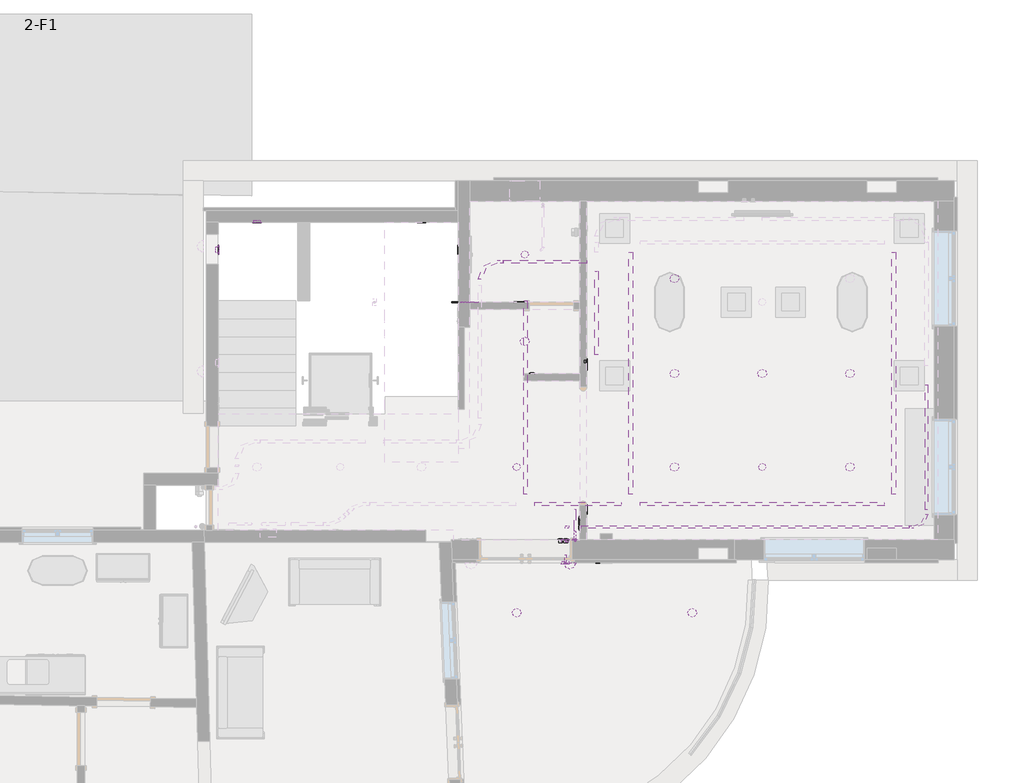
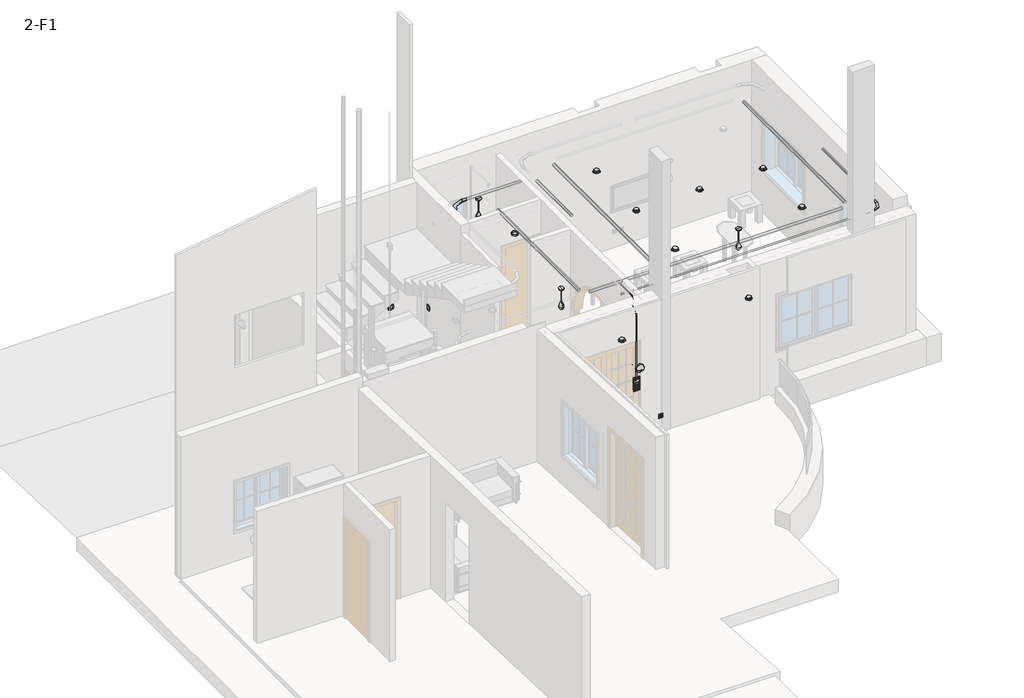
# One storey, part 5 of 6: 19 light fixtures, 16 cable carrier segments, 10 switching devices, 7 pipe fittings, 7 proxies, 6 cable carrier fittings, 5 pipe segments, 4 electric appliances.
"""IFC4 building model written with IfcOpenShell, lengths in millimetres."""

from ifc_helpers import new_model, si_unit, point, frame, frame_2d, origin, place, context, project, spatial, circle_curve, trimmed, segment, composite_curve, outline, extrude, transform, mapped, element, save
from components import mechanical_equipment_c57d0791, wall_mounted_socket_ups_wall_mounted_socket_ups_4524048d, m_conduit_elbow_aluminum_standard_d6e83718, m_conduit_elbow_steel_standard_79cfaf55, m_conduit_elbow_steel_standard_5c2c710b, m_conduit_elbow_steel_standard_9fb14d21, m_conduit_elbow_without_fittings_emt_standard_7170886f, m_conduit_elbow_without_fittings_emt_standard_8d8c0850, communication_device_4de170aa, wall_mounted_data_socket_wall_mounted_data_socket_ap_474314e8, m_downlight_recessed_can_152mm_incandescent_120v_1ee42939, m_pendant_lamp_art_glass_led_standard_2036dae1, m_recessed_lamp_round_led_e6f06c98, m_recessed_lamp_round_led_ae0475c0, street_light_07_uk_wall_mounted_94188376, m_bend_pvc_sch_40_dwv_standard_738aab8b, m_plug_pvc_sch_40_dwv_standard_6c40de1c, m_tee_reducing_sanitary_pvc_sch_40_dwv_standard_ac374d09, m_tee_sanitary_pvc_sch_40_dwv_standard_d1848222, switching_device_ab05ab5c

model = new_model("IFC4")

# Units and contexts
model_context = context("Model", 3, world=origin())
ifc_project = project(units=[si_unit("LENGTHUNIT", "METRE", prefix="MILLI")], contexts=[model_context])

# Site, building, storey
site = spatial("IfcSite", under=ifc_project)
building = spatial("IfcBuilding", under=site)
storey = spatial("IfcBuildingStorey", under=building, Name="2-F1", Elevation=3000.0)

# Proxies
placement = place(None, origin())
mechanical_equipment_shape = mechanical_equipment_c57d0791(model_context)
element("IfcBuildingElementProxy", 1, Name="HC_Control Unit_MEPcontent_ABB_ClimaEco Sensors_HVAC-control element_INT-EN : SAF-A1.0.1-24", ObjectType="HC_Control Unit_MEPcontent_ABB_ClimaEco Sensors_HVAC-control element_INT-EN : SAF-A1.0.1-24", at=placement, inside=storey, context=model_context, shape_type="MappedRepresentation", body=[
    mapped(mechanical_equipment_shape, transform((1129.4713421, 3162.6789159, 4600.0), x_axis=(-1.0, 0.0, 0.0), y_axis=(0.0, 0.0, 1.0), z_axis=(0.0, 1.0, 0.0))),
])
wall_mounted_socket_ups_wall_mounted_socket_ups_shape = wall_mounted_socket_ups_wall_mounted_socket_ups_4524048d(model_context)
element("IfcBuildingElementProxy", 2, Name="WALL MOUNTED SOCKET : WALL MOUNTED SOCKET", ObjectType="WALL MOUNTED SOCKET : WALL MOUNTED SOCKET", at=placement, inside=storey, context=model_context, shape_type="MappedRepresentation", body=[
    mapped(wall_mounted_socket_ups_wall_mounted_socket_ups_shape, transform((1535.5234079, 2780.6486583, 3450.0), x_axis=(1.0, 0.0, 0.0), y_axis=(0.0, 0.0, 1.0), z_axis=(0.0, -1.0, 0.0))),
])
element("IfcBuildingElementProxy", 3, Name="WALL MOUNTED SOCKET UPS : WALL MOUNTED SOCKET UPS", ObjectType="WALL MOUNTED SOCKET UPS : WALL MOUNTED SOCKET UPS", at=placement, inside=storey, context=model_context, shape_type="MappedRepresentation", body=[
    mapped(wall_mounted_socket_ups_wall_mounted_socket_ups_shape, transform((-627.4765921, 9014.1620874, 4110.0), x_axis=(0.0, 1.0, 0.0), y_axis=(0.0, 0.0, 1.0), z_axis=(1.0, 0.0, 0.0))),
])
element("IfcBuildingElementProxy", 4, Name="WALL MOUNTED SOCKET UPS : WALL MOUNTED SOCKET UPS", ObjectType="WALL MOUNTED SOCKET UPS : WALL MOUNTED SOCKET UPS", at=placement, inside=storey, context=model_context, shape_type="MappedRepresentation", body=[
    mapped(wall_mounted_socket_ups_wall_mounted_socket_ups_shape, transform((1335.5234079, 6061.6620874, 3450.0), x_axis=(0.0, 1.0, 0.0), y_axis=(0.0, 0.0, 1.0), z_axis=(1.0, 0.0, 0.0))),
])
element("IfcBuildingElementProxy", 5, Name="WALL MOUNTED SOCKET UPS : WALL MOUNTED SOCKET UPS", ObjectType="WALL MOUNTED SOCKET UPS : WALL MOUNTED SOCKET UPS", at=placement, inside=storey, context=model_context, shape_type="MappedRepresentation", body=[
    mapped(wall_mounted_socket_ups_wall_mounted_socket_ups_shape, transform((3335.5234079, 3162.6789159, 3450.0), x_axis=(-1.0, 0.0, 0.0), y_axis=(0.0, 0.0, 1.0), z_axis=(0.0, 1.0, 0.0))),
])
element("IfcBuildingElementProxy", 6, Name="WALL MOUNTED SOCKET UPS : WALL MOUNTED SOCKET UPS", ObjectType="WALL MOUNTED SOCKET UPS : WALL MOUNTED SOCKET UPS", at=placement, inside=storey, context=model_context, shape_type="MappedRepresentation", body=[
    mapped(wall_mounted_socket_ups_wall_mounted_socket_ups_shape, transform((7235.5234079, 3317.3986583, 3450.0), x_axis=(0.0, -1.0, 0.0), y_axis=(0.0, 0.0, 1.0), z_axis=(-1.0, 0.0, 0.0))),
])
element("IfcBuildingElementProxy", 7, Name="WALL MOUNTED WATERPROOF SOCKET : WALL MOUNTED WATERPROOF SOCKET", ObjectType="WALL MOUNTED WATERPROOF SOCKET : WALL MOUNTED WATERPROOF SOCKET", at=placement, inside=storey, context=model_context, shape_type="MappedRepresentation", body=[
    mapped(wall_mounted_socket_ups_wall_mounted_socket_ups_shape, transform((-430.7265921, 9251.6620874, 1945.0), x_axis=(-1.0, 0.0, 0.0), y_axis=(0.0, 0.0, 1.0), z_axis=(0.0, 1.0, 0.0))),
])

# Cable carrier fittings
m_conduit_elbow_aluminum_standard_shape = m_conduit_elbow_aluminum_standard_d6e83718(model_context)
element("IfcCableCarrierFitting", 8, ObjectType="M_Conduit Elbow - Aluminum : Standard", at=placement, inside=storey, context=model_context, shape_type="MappedRepresentation", body=[
    mapped(m_conduit_elbow_aluminum_standard_shape, transform((1137.9812451, 3147.4452594, 6275.3435562), x_axis=(0.0, -0.9999750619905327, 0.007062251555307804), y_axis=(0.0, -0.007062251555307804, -0.9999750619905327), z_axis=(1.0, 0.0, 0.0))),
])
m_conduit_elbow_steel_standard_shape = m_conduit_elbow_steel_standard_79cfaf55(model_context)
element("IfcCableCarrierFitting", 9, ObjectType="M_Conduit Elbow - Steel : Standard", at=placement, inside=storey, context=model_context, shape_type="MappedRepresentation", body=[
    mapped(m_conduit_elbow_steel_standard_shape, transform((7045.0916116, 3382.4258078, 6269.835), x_axis=(1.0, 0.0, 0.0), y_axis=(0.0, 1.0, 0.0), z_axis=(0.0, 0.0, 1.0))),
])
m_conduit_elbow_steel_standard_2_shape = m_conduit_elbow_steel_standard_5c2c710b(model_context)
element("IfcCableCarrierFitting", 10, ObjectType="M_Conduit Elbow - Steel : Standard", at=placement, inside=storey, context=model_context, shape_type="MappedRepresentation", body=[
    mapped(m_conduit_elbow_steel_standard_2_shape, transform((976.3682535, 2781.676757, 6269.835), x_axis=(0.0, 0.0, 1.0), y_axis=(0.0, 1.0, 0.0), z_axis=(-1.0, 0.0, 0.0))),
])
m_conduit_elbow_steel_standard_3_shape = m_conduit_elbow_steel_standard_9fb14d21(model_context)
element("IfcCableCarrierFitting", 11, ObjectType="M_Conduit Elbow - Steel : Standard", at=placement, inside=storey, context=model_context, shape_type="MappedRepresentation", body=[
    mapped(m_conduit_elbow_steel_standard_3_shape, transform((-464.4765921, 7840.3, 6269.835), x_axis=(-1.0, 0.0, 0.0), y_axis=(0.0, -1.0, 0.0), z_axis=(0.0, 0.0, 1.0))),
])
m_conduit_elbow_without_fittings_emt_standard_shape = m_conduit_elbow_without_fittings_emt_standard_7170886f(model_context)
element("IfcCableCarrierFitting", 12, ObjectType="M_Conduit Elbow - without Fittings - EMT : Standard", at=placement, inside=storey, context=model_context, shape_type="MappedRepresentation", body=[
    mapped(m_conduit_elbow_without_fittings_emt_standard_shape, transform((-777.1788108, 7159.7000558, 6291.042078), x_axis=(-0.9999999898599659, 0.0, 0.00014240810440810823), y_axis=(-0.00014240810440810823, 0.0, -0.9999999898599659), z_axis=(0.0, -1.0, 0.0))),
])
m_conduit_elbow_without_fittings_emt_standard_2_shape = m_conduit_elbow_without_fittings_emt_standard_8d8c0850(model_context)
element("IfcCableCarrierFitting", 13, ObjectType="M_Conduit Elbow - without Fittings - EMT : Standard", at=placement, inside=storey, context=model_context, shape_type="MappedRepresentation", body=[
    mapped(m_conduit_elbow_without_fittings_emt_standard_2_shape, transform((-777.1788108, 7159.7000558, 1671.0418139), x_axis=(0.0, 0.0, -1.0), y_axis=(-1.0, 0.0, 0.0), z_axis=(0.0, 1.0, 0.0))),
])

# Cable carrier segments
element("IfcCableCarrierSegment", 14, ObjectType="Electrical Metallic Tubing (EMT)", at=placement, inside=storey, context=model_context, shape_type="SweptSolid", body=[
    extrude(outline(composite_curve([segment(trimmed(circle_curve(frame_2d((0.0, -8.965)), 8.965), [point((-8.965, -8.965))], [point((0.0, 0.0))], False, "CARTESIAN"), True, "CONTINUOUS"), segment(trimmed(circle_curve(frame_2d((0.0, -8.965)), 8.965), [point((0.0, 0.0))], [point((8.965, -8.965))], False, "CARTESIAN"), True, "CONTINUOUS"), segment(trimmed(circle_curve(frame_2d((0.0, -8.965)), 8.965), [point((8.965, -8.965))], [point((0.0, -17.93))], False, "CARTESIAN"), True, "CONTINUOUS"), segment(trimmed(circle_curve(frame_2d((0.0, -8.965)), 8.965), [point((0.0, -17.93))], [point((-8.965, -8.965))], False, "CARTESIAN"), True, "CONTINUOUS")], self_intersect=False)), frame((-490.5258686, 7159.7000558, 6282.0362562), z_axis=(-0.9999999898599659, 0.0, 0.00014240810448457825), x_axis=(0.0, 1.0, 0.0)), (0.0, 0.0, 1.0), 131.6184746),
])
element("IfcCableCarrierSegment", 15, ObjectType="Electrical Metallic Tubing (EMT)", at=placement, inside=storey, context=model_context, shape_type="SweptSolid", body=[
    extrude(outline(composite_curve([segment(trimmed(circle_curve(frame_2d((-777.1788108, 7159.7000558)), 8.965), [point((-768.2138108, 7159.7000558))], [point((-777.1788108, 7150.7350558))], False, "CARTESIAN"), True, "CONTINUOUS"), segment(trimmed(circle_curve(frame_2d((-777.1788108, 7159.7000558)), 8.965), [point((-777.1788108, 7150.7350558))], [point((-786.1438108, 7159.7000558))], False, "CARTESIAN"), True, "CONTINUOUS"), segment(trimmed(circle_curve(frame_2d((-777.1788108, 7159.7000558)), 8.965), [point((-786.1438108, 7159.7000558))], [point((-777.1788108, 7168.6650558))], False, "CARTESIAN"), True, "CONTINUOUS"), segment(trimmed(circle_curve(frame_2d((-777.1788108, 7159.7000558)), 8.965), [point((-777.1788108, 7168.6650558))], [point((-768.2138108, 7159.7000558))], False, "CARTESIAN"), True, "CONTINUOUS")], self_intersect=False)), frame((0.0, 0.0, 1826.0569537), z_axis=(0.0, 0.0, 1.0), x_axis=(1.0, 0.0, 0.0)), (0.0, 0.0, 1.0), 4309.9493771),
])
element("IfcCableCarrierSegment", 16, ObjectType="Low Current", at=placement, inside=storey, context=model_context, shape_type="SweptSolid", body=[
    extrude(outline(composite_curve([segment(trimmed(circle_curve(frame_2d((6269.835, 7045.0916116)), 19.175), [point((6269.835, 7064.2666116))], [point((6289.01, 7045.0916116))], False, "CARTESIAN"), True, "CONTINUOUS"), segment(trimmed(circle_curve(frame_2d((6269.835, 7045.0916116)), 19.175), [point((6289.01, 7045.0916116))], [point((6269.835, 7025.9166116))], False, "CARTESIAN"), True, "CONTINUOUS"), segment(trimmed(circle_curve(frame_2d((6269.835, 7045.0916116)), 19.175), [point((6269.835, 7025.9166116))], [point((6250.66, 7045.0916116))], False, "CARTESIAN"), True, "CONTINUOUS"), segment(trimmed(circle_curve(frame_2d((6269.835, 7045.0916116)), 19.175), [point((6250.66, 7045.0916116))], [point((6269.835, 7064.2666116))], False, "CARTESIAN"), True, "CONTINUOUS")], self_intersect=False)), frame((0.0, 3671.3508078, 0.0), z_axis=(0.0, 1.0, 0.0), x_axis=(0.0, 0.0, 1.0)), (0.0, 0.0, 1.0), 2101.0120961),
])
element("IfcCableCarrierSegment", 17, ObjectType="Low Current", at=placement, inside=storey, context=model_context, shape_type="SweptSolid", body=[
    extrude(outline(composite_curve([segment(trimmed(circle_curve(frame_2d((3382.4258078, 6269.835)), 19.175), [point((3401.6008078, 6269.835))], [point((3382.4258078, 6250.66))], False, "CARTESIAN"), True, "CONTINUOUS"), segment(trimmed(circle_curve(frame_2d((3382.4258078, 6269.835)), 19.175), [point((3382.4258078, 6250.66))], [point((3363.2508078, 6269.835))], False, "CARTESIAN"), True, "CONTINUOUS"), segment(trimmed(circle_curve(frame_2d((3382.4258078, 6269.835)), 19.175), [point((3363.2508078, 6269.835))], [point((3382.4258078, 6289.01))], False, "CARTESIAN"), True, "CONTINUOUS"), segment(trimmed(circle_curve(frame_2d((3382.4258078, 6269.835)), 19.175), [point((3382.4258078, 6289.01))], [point((3401.6008078, 6269.835))], False, "CARTESIAN"), True, "CONTINUOUS")], self_intersect=False)), frame((976.3682535, 0.0, 0.0), z_axis=(1.0, 0.0, 0.0), x_axis=(0.0, 1.0, 0.0)), (0.0, 0.0, 1.0), 56.6129915),
])
element("IfcCableCarrierSegment", 18, ObjectType="Low Current", at=placement, inside=storey, context=model_context, shape_type="SweptSolid", body=[
    extrude(outline(composite_curve([segment(trimmed(circle_curve(frame_2d((6269.835, 1496.7084668)), 27.9), [point((6269.835, 1468.8084668))], [point((6241.935, 1496.7084668))], False, "CARTESIAN"), True, "CONTINUOUS"), segment(trimmed(circle_curve(frame_2d((6269.835, 1496.7084668)), 27.9), [point((6241.935, 1496.7084668))], [point((6269.835, 1524.6084668))], False, "CARTESIAN"), True, "CONTINUOUS"), segment(trimmed(circle_curve(frame_2d((6269.835, 1496.7084668)), 27.9), [point((6269.835, 1524.6084668))], [point((6297.735, 1496.7084668))], False, "CARTESIAN"), True, "CONTINUOUS"), segment(trimmed(circle_curve(frame_2d((6269.835, 1496.7084668)), 27.9), [point((6297.735, 1496.7084668))], [point((6269.835, 1468.8084668))], False, "CARTESIAN"), True, "CONTINUOUS")], self_intersect=False)), frame((0.0, 6281.3, 0.0), z_axis=(0.0, 1.0, 0.0), x_axis=(0.0, 0.0, 1.0)), (0.0, 0.0, 1.0), 1400.0),
])
element("IfcCableCarrierSegment", 19, ObjectType="Low Current", at=placement, inside=storey, context=model_context, shape_type="SweptSolid", body=[
    extrude(outline(composite_curve([segment(trimmed(circle_curve(frame_2d((7840.3, 6269.835)), 27.9), [point((7868.2, 6269.835))], [point((7840.3, 6241.935))], False, "CARTESIAN"), True, "CONTINUOUS"), segment(trimmed(circle_curve(frame_2d((7840.3, 6269.835)), 27.9), [point((7840.3, 6241.935))], [point((7812.4, 6269.835))], False, "CARTESIAN"), True, "CONTINUOUS"), segment(trimmed(circle_curve(frame_2d((7840.3, 6269.835)), 27.9), [point((7812.4, 6269.835))], [point((7840.3, 6297.735))], False, "CARTESIAN"), True, "CONTINUOUS"), segment(trimmed(circle_curve(frame_2d((7840.3, 6269.835)), 27.9), [point((7840.3, 6297.735))], [point((7868.2, 6269.835))], False, "CARTESIAN"), True, "CONTINUOUS")], self_intersect=False)), frame((-70.7765921, 0.0, 0.0), z_axis=(1.0, 0.0, 0.0), x_axis=(0.0, 1.0, 0.0)), (0.0, 0.0, 1.0), 1408.4850589),
])
element("IfcCableCarrierSegment", 20, ObjectType="Low Current", at=placement, inside=storey, context=model_context, shape_type="SweptSolid", body=[
    extrude(outline(composite_curve([segment(trimmed(circle_curve(frame_2d((976.3682535, 3148.4258078)), 11.71), [point((988.0782535, 3148.4258078))], [point((976.3682535, 3136.7158078))], False, "CARTESIAN"), True, "CONTINUOUS"), segment(trimmed(circle_curve(frame_2d((976.3682535, 3148.4258078)), 11.71), [point((976.3682535, 3136.7158078))], [point((964.6582535, 3148.4258078))], False, "CARTESIAN"), True, "CONTINUOUS"), segment(trimmed(circle_curve(frame_2d((976.3682535, 3148.4258078)), 11.71), [point((964.6582535, 3148.4258078))], [point((976.3682535, 3160.1358078))], False, "CARTESIAN"), True, "CONTINUOUS"), segment(trimmed(circle_curve(frame_2d((976.3682535, 3148.4258078)), 11.71), [point((976.3682535, 3160.1358078))], [point((988.0782535, 3148.4258078))], False, "CARTESIAN"), True, "CONTINUOUS")], self_intersect=False)), frame((0.0, 0.0, 4584.5), z_axis=(0.0, 0.0, 1.0), x_axis=(1.0, 0.0, 0.0)), (0.0, 0.0, 1.0), 1630.7),
])
element("IfcCableCarrierSegment", 21, ObjectType="Low Current", at=placement, inside=storey, context=model_context, shape_type="SweptSolid", body=[
    extrude(outline(composite_curve([segment(trimmed(circle_curve(frame_2d((976.3682535, 2781.676757)), 11.71), [point((988.0782535, 2781.676757))], [point((976.3682535, 2769.966757))], False, "CARTESIAN"), True, "CONTINUOUS"), segment(trimmed(circle_curve(frame_2d((976.3682535, 2781.676757)), 11.71), [point((976.3682535, 2769.966757))], [point((964.6582535, 2781.676757))], False, "CARTESIAN"), True, "CONTINUOUS"), segment(trimmed(circle_curve(frame_2d((976.3682535, 2781.676757)), 11.71), [point((964.6582535, 2781.676757))], [point((976.3682535, 2793.386757))], False, "CARTESIAN"), True, "CONTINUOUS"), segment(trimmed(circle_curve(frame_2d((976.3682535, 2781.676757)), 11.71), [point((976.3682535, 2793.386757))], [point((988.0782535, 2781.676757))], False, "CARTESIAN"), True, "CONTINUOUS")], self_intersect=False)), frame((0.0, 0.0, 4584.5), z_axis=(0.0, 0.0, 1.0), x_axis=(1.0, 0.0, 0.0)), (0.0, 0.0, 1.0), 1496.4225),
])
element("IfcCableCarrierSegment", 22, ObjectType="Low Current", at=placement, inside=storey, context=model_context, shape_type="SweptSolid", body=[
    extrude(outline(composite_curve([segment(trimmed(circle_curve(frame_2d((3382.4258078, 6269.835)), 19.175), [point((3401.6008078, 6269.835))], [point((3382.4258078, 6250.66))], False, "CARTESIAN"), True, "CONTINUOUS"), segment(trimmed(circle_curve(frame_2d((3382.4258078, 6269.835)), 19.175), [point((3382.4258078, 6250.66))], [point((3363.2508078, 6269.835))], False, "CARTESIAN"), True, "CONTINUOUS"), segment(trimmed(circle_curve(frame_2d((3382.4258078, 6269.835)), 19.175), [point((3363.2508078, 6269.835))], [point((3382.4258078, 6289.01))], False, "CARTESIAN"), True, "CONTINUOUS"), segment(trimmed(circle_curve(frame_2d((3382.4258078, 6269.835)), 19.175), [point((3382.4258078, 6289.01))], [point((3401.6008078, 6269.835))], False, "CARTESIAN"), True, "CONTINUOUS")], self_intersect=False)), frame((1242.9812451, 0.0, 0.0), z_axis=(1.0, 0.0, 0.0), x_axis=(0.0, 1.0, 0.0)), (0.0, 0.0, 1.0), 5513.1853666),
])
element("IfcCableCarrierSegment", 23, ObjectType="Power", at=placement, inside=storey, context=model_context, shape_type="SweptSolid", body=[
    extrude(outline(composite_curve([segment(trimmed(circle_curve(frame_2d((3771.6620874, 6272.1)), 30.165), [point((3741.4970874, 6272.1))], [point((3771.6620874, 6302.265))], False, "CARTESIAN"), True, "CONTINUOUS"), segment(trimmed(circle_curve(frame_2d((3771.6620874, 6272.1)), 30.165), [point((3771.6620874, 6302.265))], [point((3801.8270874, 6272.1))], False, "CARTESIAN"), True, "CONTINUOUS"), segment(trimmed(circle_curve(frame_2d((3771.6620874, 6272.1)), 30.165), [point((3801.8270874, 6272.1))], [point((3771.6620874, 6241.935))], False, "CARTESIAN"), True, "CONTINUOUS"), segment(trimmed(circle_curve(frame_2d((3771.6620874, 6272.1)), 30.165), [point((3771.6620874, 6241.935))], [point((3741.4970874, 6272.1))], False, "CARTESIAN"), True, "CONTINUOUS")], self_intersect=False)), frame((2234.5234079, 0.0, 0.0), z_axis=(1.0, 0.0, 0.0), x_axis=(0.0, 1.0, 0.0)), (0.0, 0.0, 1.0), 4102.0),
])
element("IfcCableCarrierSegment", 24, ObjectType="Power", at=placement, inside=storey, context=model_context, shape_type="SweptSolid", body=[
    extrude(outline(composite_curve([segment(trimmed(circle_curve(frame_2d((6272.1, 2075.5234079)), 30.165), [point((6272.1, 2045.3584079))], [point((6241.935, 2075.5234079))], False, "CARTESIAN"), True, "CONTINUOUS"), segment(trimmed(circle_curve(frame_2d((6272.1, 2075.5234079)), 30.165), [point((6241.935, 2075.5234079))], [point((6272.1, 2105.6884079))], False, "CARTESIAN"), True, "CONTINUOUS"), segment(trimmed(circle_curve(frame_2d((6272.1, 2075.5234079)), 30.165), [point((6272.1, 2105.6884079))], [point((6302.265, 2075.5234079))], False, "CARTESIAN"), True, "CONTINUOUS"), segment(trimmed(circle_curve(frame_2d((6272.1, 2075.5234079)), 30.165), [point((6302.265, 2075.5234079))], [point((6272.1, 2045.3584079))], False, "CARTESIAN"), True, "CONTINUOUS")], self_intersect=False)), frame((0.0, 3930.6620874, 0.0), z_axis=(0.0, 1.0, 0.0), x_axis=(0.0, 0.0, 1.0)), (0.0, 0.0, 1.0), 4072.0),
])
element("IfcCableCarrierSegment", 25, ObjectType="Power", at=placement, inside=storey, context=model_context, shape_type="SweptSolid", body=[
    extrude(outline(composite_curve([segment(trimmed(circle_curve(frame_2d((6272.1, 6495.5234079)), 30.165), [point((6272.1, 6465.3584079))], [point((6241.935, 6495.5234079))], False, "CARTESIAN"), True, "CONTINUOUS"), segment(trimmed(circle_curve(frame_2d((6272.1, 6495.5234079)), 30.165), [point((6241.935, 6495.5234079))], [point((6272.1, 6525.6884079))], False, "CARTESIAN"), True, "CONTINUOUS"), segment(trimmed(circle_curve(frame_2d((6272.1, 6495.5234079)), 30.165), [point((6272.1, 6525.6884079))], [point((6302.265, 6495.5234079))], False, "CARTESIAN"), True, "CONTINUOUS"), segment(trimmed(circle_curve(frame_2d((6272.1, 6495.5234079)), 30.165), [point((6302.265, 6495.5234079))], [point((6272.1, 6465.3584079))], False, "CARTESIAN"), True, "CONTINUOUS")], self_intersect=False)), frame((0.0, 3930.6620874, 0.0), z_axis=(0.0, 1.0, 0.0), x_axis=(0.0, 0.0, 1.0)), (0.0, 0.0, 1.0), 4072.0),
])
element("IfcCableCarrierSegment", 26, ObjectType="Power", at=placement, inside=storey, context=model_context, shape_type="SweptSolid", body=[
    extrude(outline(composite_curve([segment(trimmed(circle_curve(frame_2d((3771.6620874, 6272.1)), 30.165), [point((3741.4970874, 6272.1))], [point((3771.6620874, 6302.265))], False, "CARTESIAN"), True, "CONTINUOUS"), segment(trimmed(circle_curve(frame_2d((3771.6620874, 6272.1)), 30.165), [point((3771.6620874, 6302.265))], [point((3801.8270874, 6272.1))], False, "CARTESIAN"), True, "CONTINUOUS"), segment(trimmed(circle_curve(frame_2d((3771.6620874, 6272.1)), 30.165), [point((3801.8270874, 6272.1))], [point((3771.6620874, 6241.935))], False, "CARTESIAN"), True, "CONTINUOUS"), segment(trimmed(circle_curve(frame_2d((3771.6620874, 6272.1)), 30.165), [point((3771.6620874, 6241.935))], [point((3741.4970874, 6272.1))], False, "CARTESIAN"), True, "CONTINUOUS")], self_intersect=False)), frame((461.5234079, 0.0, 0.0), z_axis=(1.0, 0.0, 0.0), x_axis=(0.0, 1.0, 0.0)), (0.0, 0.0, 1.0), 1455.0),
])
element("IfcCableCarrierSegment", 27, ObjectType="Power", at=placement, inside=storey, context=model_context, shape_type="SweptSolid", body=[
    extrude(outline(composite_curve([segment(trimmed(circle_curve(frame_2d((6272.1, 302.5234079)), 30.165), [point((6272.1, 332.6884079))], [point((6302.265, 302.5234079))], False, "CARTESIAN"), True, "CONTINUOUS"), segment(trimmed(circle_curve(frame_2d((6272.1, 302.5234079)), 30.165), [point((6302.265, 302.5234079))], [point((6272.1, 272.3584079))], False, "CARTESIAN"), True, "CONTINUOUS"), segment(trimmed(circle_curve(frame_2d((6272.1, 302.5234079)), 30.165), [point((6272.1, 272.3584079))], [point((6241.935, 302.5234079))], False, "CARTESIAN"), True, "CONTINUOUS"), segment(trimmed(circle_curve(frame_2d((6272.1, 302.5234079)), 30.165), [point((6241.935, 302.5234079))], [point((6272.1, 332.6884079))], False, "CARTESIAN"), True, "CONTINUOUS")], self_intersect=False)), frame((0.0, 3930.6620874, 0.0), z_axis=(0.0, 1.0, 0.0), x_axis=(0.0, 0.0, 1.0)), (0.0, 0.0, 1.0), 3256.9341694),
])
element("IfcCableCarrierSegment", 28, ObjectType="Power", at=placement, inside=storey, context=model_context, shape_type="SweptSolid", body=[
    extrude(outline(composite_curve([segment(trimmed(circle_curve(frame_2d((0.0, -10.67)), 10.67), [point((10.67, -10.67))], [point((0.0, -21.34))], False, "CARTESIAN"), True, "CONTINUOUS"), segment(trimmed(circle_curve(frame_2d((0.0, -10.67)), 10.67), [point((0.0, -21.34))], [point((-10.67, -10.67))], False, "CARTESIAN"), True, "CONTINUOUS"), segment(trimmed(circle_curve(frame_2d((0.0, -10.67)), 10.67), [point((-10.67, -10.67))], [point((0.0, 0.0))], False, "CARTESIAN"), True, "CONTINUOUS"), segment(trimmed(circle_curve(frame_2d((0.0, -10.67)), 10.67), [point((0.0, 0.0))], [point((10.67, -10.67))], False, "CARTESIAN"), True, "CONTINUOUS")], self_intersect=False)), frame((1137.9812451, 3677.5236058, 6282.2701823), z_axis=(0.0, -0.9999750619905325, 0.007062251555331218), x_axis=(1.0, 0.0, 0.0)), (0.0, 0.0, 1.0), 364.1961333),
])
element("IfcCableCarrierSegment", 29, ObjectType="Power", at=placement, inside=storey, context=model_context, shape_type="SweptSolid", body=[
    extrude(outline(composite_curve([segment(trimmed(circle_curve(frame_2d((1137.9812451, 3147.4452594)), 10.67), [point((1148.6512451, 3147.4452594))], [point((1137.9812451, 3136.7752594))], False, "CARTESIAN"), True, "CONTINUOUS"), segment(trimmed(circle_curve(frame_2d((1137.9812451, 3147.4452594)), 10.67), [point((1137.9812451, 3136.7752594))], [point((1127.3112451, 3147.4452594))], False, "CARTESIAN"), True, "CONTINUOUS"), segment(trimmed(circle_curve(frame_2d((1137.9812451, 3147.4452594)), 10.67), [point((1127.3112451, 3147.4452594))], [point((1137.9812451, 3158.1152594))], False, "CARTESIAN"), True, "CONTINUOUS"), segment(trimmed(circle_curve(frame_2d((1137.9812451, 3147.4452594)), 10.67), [point((1137.9812451, 3158.1152594))], [point((1148.6512451, 3147.4452594))], False, "CARTESIAN"), True, "CONTINUOUS")], self_intersect=False)), frame((0.0, 0.0, 4600.0), z_axis=(0.0, 0.0, 1.0), x_axis=(1.0, 0.0, 0.0)), (0.0, 0.0, 1.0), 1509.5234798),
])

# Electric appliances
communication_device_shape = communication_device_4de170aa(model_context)
element("IfcElectricAppliance", 30, ObjectType="E_Communication Device_Intercom_F_MEPcontent_Recessed_Generic : Communication Device", at=placement, inside=storey, context=model_context, shape_type="MappedRepresentation", body=[
    mapped(communication_device_shape, transform((975.5234079, 3170.6486583, 4435.5), x_axis=(-1.0, 0.0, 0.0), y_axis=(0.0, 0.0, 1.0), z_axis=(0.0, 1.0, 0.0))),
])
element("IfcElectricAppliance", 31, ObjectType="E_Communication Device_Intercom_F_MEPcontent_Recessed_Generic : Communication Device", at=placement, inside=storey, context=model_context, shape_type="MappedRepresentation", body=[
    mapped(communication_device_shape, transform((975.5234079, 2761.676757, 4435.5), x_axis=(1.0, 0.0, 0.0), y_axis=(0.0, 0.0, 1.0), z_axis=(0.0, -1.0, 0.0))),
])
wall_mounted_data_socket_wall_mounted_data_socket_ap_shape = wall_mounted_data_socket_wall_mounted_data_socket_ap_474314e8(model_context)
element("IfcElectricAppliance", 32, ObjectType="WALL MOUNTED DATA SOCKET : WALL MOUNTED DATA SOCKET AP", at=placement, inside=storey, context=model_context, shape_type="MappedRepresentation", body=[
    mapped(wall_mounted_data_socket_wall_mounted_data_socket_ap_shape, transform((7235.5234079, 5927.3848932, 3450.0), x_axis=(0.0, -1.0, 0.0), y_axis=(0.0, 0.0, 1.0), z_axis=(-1.0, 0.0, 0.0))),
])
element("IfcElectricAppliance", 33, ObjectType="WALL MOUNTED DATA SOCKET : WALL MOUNTED DATA SOCKET AP", at=placement, inside=storey, context=model_context, shape_type="MappedRepresentation", body=[
    mapped(wall_mounted_data_socket_wall_mounted_data_socket_ap_shape, transform((1335.5234079, 6161.6620874, 4200.0), x_axis=(0.0, 1.0, 0.0), y_axis=(0.0, 0.0, 1.0), z_axis=(1.0, 0.0, 0.0))),
])

# Light fixtures
m_downlight_recessed_can_152mm_incandescent_120v_shape = m_downlight_recessed_can_152mm_incandescent_120v_1ee42939(model_context)
element("IfcLightFixture", 34, ObjectType="M_Downlight - Recessed Can : 152mm Incandescent - 120V", at=placement, inside=storey, context=model_context, shape_type="MappedRepresentation", body=[
    mapped(m_downlight_recessed_can_152mm_incandescent_120v_shape, transform((294.0234079, 6501.6620874, 3585.4), x_axis=(1.0, 0.0, 0.0), y_axis=(0.0, 1.0, 0.0), z_axis=(0.0, 0.0, 1.0))),
])
m_pendant_lamp_art_glass_led_standard_shape = m_pendant_lamp_art_glass_led_standard_2036dae1(model_context)
element("IfcLightFixture", 35, ObjectType="M_Pendant Lamp - Art Glass - LED : Standard", at=placement, inside=storey, context=model_context, shape_type="MappedRepresentation", body=[
    mapped(m_pendant_lamp_art_glass_led_standard_shape, transform((4286.4363488, 4390.5529852, 6123.0), x_axis=(1.0, 0.0, 0.0), y_axis=(0.0, -1.0, 0.0), z_axis=(0.0, 0.0, -1.0))),
])
element("IfcLightFixture", 36, ObjectType="M_Pendant Lamp - Art Glass - LED : Standard", at=placement, inside=storey, context=model_context, shape_type="MappedRepresentation", body=[
    mapped(m_pendant_lamp_art_glass_led_standard_shape, transform((157.497375, 4391.4659262, 6100.0), x_axis=(0.0, 1.0, 0.0), y_axis=(1.0, 0.0, 0.0), z_axis=(0.0, 0.0, -1.0))),
])
element("IfcLightFixture", 37, ObjectType="M_Pendant Lamp - Art Glass - LED : Standard", at=placement, inside=storey, context=model_context, shape_type="MappedRepresentation", body=[
    mapped(m_pendant_lamp_art_glass_led_standard_shape, transform((294.9363488, 7961.6620874, 6100.0), x_axis=(1.0, 0.0, 0.0), y_axis=(0.0, -1.0, 0.0), z_axis=(0.0, 0.0, -1.0))),
])
m_recessed_lamp_round_led_shape = m_recessed_lamp_round_led_e6f06c98(model_context)
element("IfcLightFixture", 38, ObjectType="M_Recessed Lamp - Round - LED : 100mm Trimless Downlight", at=placement, inside=storey, context=model_context, shape_type="MappedRepresentation", body=[
    mapped(m_recessed_lamp_round_led_shape, transform((-4857.4765921, 8043.0590764, 5944.4444444), x_axis=(0.0, 0.0, 1.0), y_axis=(0.0, -1.0, 0.0), z_axis=(1.0, 0.0, 0.0))),
])
element("IfcLightFixture", 39, ObjectType="M_Recessed Lamp - Round - LED : 100mm Trimless Downlight", at=placement, inside=storey, context=model_context, shape_type="MappedRepresentation", body=[
    mapped(m_recessed_lamp_round_led_shape, transform((-4207.4765921, 8501.6620874, 5986.2440191), x_axis=(1.0, 0.0, 0.0), y_axis=(0.0, 0.0, 1.0), z_axis=(0.0, -1.0, 0.0))),
])
element("IfcLightFixture", 40, ObjectType="M_Recessed Lamp - Round - LED : 100mm Trimless Downlight", at=placement, inside=storey, context=model_context, shape_type="MappedRepresentation", body=[
    mapped(m_recessed_lamp_round_led_shape, transform((-4207.4765921, 8501.6620874, 2515.7894737), x_axis=(1.0, 0.0, 0.0), y_axis=(0.0, 0.0, 1.0), z_axis=(0.0, -1.0, 0.0))),
])
element("IfcLightFixture", 41, ObjectType="M_Recessed Lamp - Round - LED : 100mm Trimless Downlight", at=placement, inside=storey, context=model_context, shape_type="MappedRepresentation", body=[
    mapped(m_recessed_lamp_round_led_shape, transform((-1442.4765921, 8501.6620874, 3700.0), x_axis=(1.0, 0.0, 0.0), y_axis=(0.0, 0.0, 1.0), z_axis=(0.0, -1.0, 0.0))),
])
element("IfcLightFixture", 42, ObjectType="M_Recessed Lamp - Round - LED : 100mm Trimless Downlight", at=placement, inside=storey, context=model_context, shape_type="MappedRepresentation", body=[
    mapped(m_recessed_lamp_round_led_shape, transform((2810.5234079, 7558.7168012, 6123.0), x_axis=(1.0, 0.0, 0.0), y_axis=(0.0, -1.0, 0.0), z_axis=(0.0, 0.0, -1.0))),
])
element("IfcLightFixture", 43, ObjectType="M_Recessed Lamp - Round - LED : 100mm Trimless Downlight", at=placement, inside=storey, context=model_context, shape_type="MappedRepresentation", body=[
    mapped(m_recessed_lamp_round_led_shape, transform((5760.5234079, 5961.6620874, 6123.0), x_axis=(1.0, 0.0, 0.0), y_axis=(0.0, -1.0, 0.0), z_axis=(0.0, 0.0, -1.0))),
])
element("IfcLightFixture", 44, ObjectType="M_Recessed Lamp - Round - LED : 100mm Trimless Downlight", at=placement, inside=storey, context=model_context, shape_type="MappedRepresentation", body=[
    mapped(m_recessed_lamp_round_led_shape, transform((4285.5234079, 5961.6620874, 6123.0), x_axis=(1.0, 0.0, 0.0), y_axis=(0.0, -1.0, 0.0), z_axis=(0.0, 0.0, -1.0))),
])
element("IfcLightFixture", 45, ObjectType="M_Recessed Lamp - Round - LED : 100mm Trimless Downlight", at=placement, inside=storey, context=model_context, shape_type="MappedRepresentation", body=[
    mapped(m_recessed_lamp_round_led_shape, transform((2810.5234079, 5961.6620874, 6123.0), x_axis=(1.0, 0.0, 0.0), y_axis=(0.0, -1.0, 0.0), z_axis=(0.0, 0.0, -1.0))),
])
element("IfcLightFixture", 46, ObjectType="M_Recessed Lamp - Round - LED : 100mm Trimless Downlight", at=placement, inside=storey, context=model_context, shape_type="MappedRepresentation", body=[
    mapped(m_recessed_lamp_round_led_shape, transform((2810.5234079, 4390.5529852, 6123.0), x_axis=(1.0, 0.0, 0.0), y_axis=(0.0, -1.0, 0.0), z_axis=(0.0, 0.0, -1.0))),
])
element("IfcLightFixture", 47, ObjectType="M_Recessed Lamp - Round - LED : 100mm Trimless Downlight", at=placement, inside=storey, context=model_context, shape_type="MappedRepresentation", body=[
    mapped(m_recessed_lamp_round_led_shape, transform((5760.5234079, 4390.5529852, 6123.0), x_axis=(1.0, 0.0, 0.0), y_axis=(0.0, -1.0, 0.0), z_axis=(0.0, 0.0, -1.0))),
])
element("IfcLightFixture", 48, ObjectType="M_Recessed Lamp - Round - LED : 100mm Trimless Downlight", at=placement, inside=storey, context=model_context, shape_type="MappedRepresentation", body=[
    mapped(m_recessed_lamp_round_led_shape, transform((-4857.4765921, 8043.0590764, 2700.0), x_axis=(0.0, 0.0, 1.0), y_axis=(0.0, -1.0, 0.0), z_axis=(1.0, 0.0, 0.0))),
])
element("IfcLightFixture", 49, ObjectType="M_Recessed Lamp - Round - LED : 100mm Trimless Downlight", at=placement, inside=storey, context=model_context, shape_type="MappedRepresentation", body=[
    mapped(m_recessed_lamp_round_led_shape, transform((3108.2803709, 1941.4945461, 6300.0), x_axis=(-1.0, 0.0, 0.0), y_axis=(0.0, 1.0, 0.0), z_axis=(0.0, 0.0, -1.0))),
])
m_recessed_lamp_round_led_2_shape = m_recessed_lamp_round_led_ae0475c0(model_context)
element("IfcLightFixture", 50, ObjectType="M_Recessed Lamp - Round - LED : 100mm Trimless Downlight", at=placement, inside=storey, context=model_context, shape_type="MappedRepresentation", body=[
    mapped(m_recessed_lamp_round_led_2_shape, transform((-827.4765921, 8043.0590764, 3750.0), x_axis=(0.0, 1.0, 0.0), y_axis=(0.0, 0.0, -1.0), z_axis=(-1.0, 0.0, 0.0))),
])
element("IfcLightFixture", 51, ObjectType="M_Recessed Lamp - Round - LED : 100mm Trimless Downlight", at=placement, inside=storey, context=model_context, shape_type="MappedRepresentation", body=[
    mapped(m_recessed_lamp_round_led_2_shape, transform((157.497375, 1941.4945461, 6300.0), x_axis=(1.0, 0.0, 0.0), y_axis=(0.0, -1.0, 0.0), z_axis=(0.0, 0.0, -1.0))),
])
street_light_07_uk_wall_mounted_shape = street_light_07_uk_wall_mounted_94188376(model_context)
element("IfcLightFixture", 52, ObjectType="Street Light 07 (UK) : Wall Mounted", at=placement, inside=storey, context=model_context, shape_type="MappedRepresentation", body=[
    mapped(street_light_07_uk_wall_mounted_shape, transform((1174.065375, 2805.6486583, 2521.3392083), x_axis=(-1.0, 0.0, 0.0), y_axis=(0.0, -1.0, 0.0), z_axis=(0.0, 0.0, 1.0))),
])

# Pipe fittings
m_bend_pvc_sch_40_dwv_standard_shape = m_bend_pvc_sch_40_dwv_standard_738aab8b(model_context)
element("IfcPipeFitting", 53, ObjectType="M_Bend - PVC - Sch 40 - DWV : Standard", at=placement, inside=storey, context=model_context, shape_type="MappedRepresentation", body=[
    mapped(m_bend_pvc_sch_40_dwv_standard_shape, transform((-692.4765921, 7961.6620874, 3751.5458331), x_axis=(0.0, 0.0, 1.0), y_axis=(1.0, 0.0, 0.0), z_axis=(0.0, 1.0, 0.0))),
])
element("IfcPipeFitting", 54, ObjectType="M_Bend - PVC - Sch 40 - DWV : Standard", at=placement, inside=storey, context=model_context, shape_type="MappedRepresentation", body=[
    mapped(m_bend_pvc_sch_40_dwv_standard_shape, transform((-692.4765921, 7961.6620874, 2987.5), x_axis=(0.0, 0.0, -1.0), y_axis=(1.0, 0.0, 0.0), z_axis=(0.0, -1.0, 0.0))),
])
element("IfcPipeFitting", 55, ObjectType="M_Bend - PVC - Sch 40 - DWV : Standard", at=placement, inside=storey, context=model_context, shape_type="MappedRepresentation", body=[
    mapped(m_bend_pvc_sch_40_dwv_standard_shape, transform((-357.4765921, 7961.6620874, 2987.5), x_axis=(1.0, 0.0, 0.0), y_axis=(0.0, 1.0, 0.0), z_axis=(0.0, 0.0, 1.0))),
])
element("IfcPipeFitting", 56, ObjectType="M_Bend - PVC - Sch 40 - DWV : Standard", at=placement, inside=storey, context=model_context, shape_type="MappedRepresentation", body=[
    mapped(m_bend_pvc_sch_40_dwv_standard_shape, transform((-357.4765921, 9331.4785325, 2987.5), x_axis=(0.0, 1.0, 0.0), y_axis=(8.503707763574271e-06, 0.0, -0.9999999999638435), z_axis=(-0.9999999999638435, 0.0, -8.503707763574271e-06))),
])
m_plug_pvc_sch_40_dwv_standard_shape = m_plug_pvc_sch_40_dwv_standard_6c40de1c(model_context)
element("IfcPipeFitting", 57, ObjectType="M_Plug - PVC - Sch 40 - DWV : Standard", at=placement, inside=storey, context=model_context, shape_type="MappedRepresentation", body=[
    mapped(m_plug_pvc_sch_40_dwv_standard_shape, transform((-5176.0238316, 9433.0785321, 2865.0), x_axis=(0.0, 1.0, 0.0), y_axis=(-1.0, 0.0, 0.0), z_axis=(0.0, 0.0, 1.0))),
])
m_tee_reducing_sanitary_pvc_sch_40_dwv_standard_shape = m_tee_reducing_sanitary_pvc_sch_40_dwv_standard_ac374d09(model_context)
element("IfcPipeFitting", 58, ObjectType="M_Tee Reducing Sanitary - PVC - Sch 40 - DWV : Standard", at=placement, inside=storey, context=model_context, shape_type="MappedRepresentation", body=[
    mapped(m_tee_reducing_sanitary_pvc_sch_40_dwv_standard_shape, transform((-357.4724885, 9331.4746276, 2864.9936021), x_axis=(0.9999999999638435, 0.0, 8.503707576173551e-06), y_axis=(8.503707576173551e-06, 0.0, -0.9999999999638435), z_axis=(0.0, 1.0, 0.0))),
])
m_tee_sanitary_pvc_sch_40_dwv_standard_shape = m_tee_sanitary_pvc_sch_40_dwv_standard_d1848222(model_context)
element("IfcPipeFitting", 59, ObjectType="M_Tee Sanitary - PVC - Sch 40 - DWV : Standard", at=placement, inside=storey, context=model_context, shape_type="MappedRepresentation", body=[
    mapped(m_tee_sanitary_pvc_sch_40_dwv_standard_shape, transform((-5176.0238316, 9331.4785321, 2865.0), x_axis=(0.0, 1.0, 0.0), y_axis=(-1.0, 0.0, 0.0), z_axis=(0.0, 0.0, 1.0))),
])

# Pipe segments
element("IfcPipeSegment", 60, ObjectType="PVC - DWV", at=placement, inside=storey, context=model_context, shape_type="SweptSolid", body=[
    extrude(outline(composite_curve([segment(trimmed(circle_curve(frame_2d((-692.4765921, 7961.6620874)), 24.13), [point((-668.3465921, 7961.6620874))], [point((-692.4765921, 7937.5320874))], False, "CARTESIAN"), True, "CONTINUOUS"), segment(trimmed(circle_curve(frame_2d((-692.4765921, 7961.6620874)), 24.13), [point((-692.4765921, 7937.5320874))], [point((-716.6065921, 7961.6620874))], False, "CARTESIAN"), True, "CONTINUOUS"), segment(trimmed(circle_curve(frame_2d((-692.4765921, 7961.6620874)), 24.13), [point((-716.6065921, 7961.6620874))], [point((-692.4765921, 7985.7920874))], False, "CARTESIAN"), True, "CONTINUOUS"), segment(trimmed(circle_curve(frame_2d((-692.4765921, 7961.6620874)), 24.13), [point((-692.4765921, 7985.7920874))], [point((-668.3465921, 7961.6620874))], False, "CARTESIAN"), True, "CONTINUOUS")], self_intersect=False)), frame((0.0, 0.0, 3049.3998), z_axis=(0.0, 0.0, 1.0), x_axis=(1.0, 0.0, 0.0)), (0.0, 0.0, 1.0), 640.2462331),
])
element("IfcPipeSegment", 61, ObjectType="PVC - DWV", at=placement, inside=storey, context=model_context, shape_type="SweptSolid", body=[
    extrude(outline(composite_curve([segment(trimmed(circle_curve(frame_2d((7961.6620874, 2987.5)), 24.13), [point((7937.5320874, 2987.5))], [point((7961.6620874, 3011.63))], False, "CARTESIAN"), True, "CONTINUOUS"), segment(trimmed(circle_curve(frame_2d((7961.6620874, 2987.5)), 24.13), [point((7961.6620874, 3011.63))], [point((7985.7920874, 2987.5))], False, "CARTESIAN"), True, "CONTINUOUS"), segment(trimmed(circle_curve(frame_2d((7961.6620874, 2987.5)), 24.13), [point((7985.7920874, 2987.5))], [point((7961.6620874, 2963.37))], False, "CARTESIAN"), True, "CONTINUOUS"), segment(trimmed(circle_curve(frame_2d((7961.6620874, 2987.5)), 24.13), [point((7961.6620874, 2963.37))], [point((7937.5320874, 2987.5))], False, "CARTESIAN"), True, "CONTINUOUS")], self_intersect=False)), frame((-630.5767921, 0.0, 0.0), z_axis=(1.0, 0.0, 0.0), x_axis=(0.0, 1.0, 0.0)), (0.0, 0.0, 1.0), 211.2004),
])
element("IfcPipeSegment", 62, ObjectType="PVC - DWV", at=placement, inside=storey, context=model_context, shape_type="SweptSolid", body=[
    extrude(outline(composite_curve([segment(trimmed(circle_curve(frame_2d((2987.5, -357.4765921)), 24.13), [point((2987.5, -333.3465921))], [point((3011.63, -357.4765921))], False, "CARTESIAN"), True, "CONTINUOUS"), segment(trimmed(circle_curve(frame_2d((2987.5, -357.4765921)), 24.13), [point((3011.63, -357.4765921))], [point((2987.5, -381.6065921))], False, "CARTESIAN"), True, "CONTINUOUS"), segment(trimmed(circle_curve(frame_2d((2987.5, -357.4765921)), 24.13), [point((2987.5, -381.6065921))], [point((2963.37, -357.4765921))], False, "CARTESIAN"), True, "CONTINUOUS"), segment(trimmed(circle_curve(frame_2d((2987.5, -357.4765921)), 24.13), [point((2963.37, -357.4765921))], [point((2987.5, -333.3465921))], False, "CARTESIAN"), True, "CONTINUOUS")], self_intersect=False)), frame((0.0, 8023.5618874, 0.0), z_axis=(0.0, 1.0, 0.0), x_axis=(0.0, 0.0, 1.0)), (0.0, 0.0, 1.0), 1246.0168452),
])
element("IfcPipeSegment", 63, ObjectType="PVC - DWV", at=placement, inside=storey, context=model_context, shape_type="SweptSolid", body=[
    extrude(outline(composite_curve([segment(trimmed(circle_curve(frame_2d((0.0, 24.1299999)), 24.13), [point((-24.13, 24.1300001))], [point((2e-07, 48.2599999))], False, "CARTESIAN"), True, "CONTINUOUS"), segment(trimmed(circle_curve(frame_2d((0.0, 24.1299999)), 24.13), [point((2e-07, 48.2599999))], [point((24.1300001, 24.1299998))], False, "CARTESIAN"), True, "CONTINUOUS"), segment(trimmed(circle_curve(frame_2d((0.0, 24.1299999)), 24.13), [point((24.1300001, 24.1299998))], [point((-1e-07, 0.0))], False, "CARTESIAN"), True, "CONTINUOUS"), segment(trimmed(circle_curve(frame_2d((0.0, 24.1299999)), 24.13), [point((-1e-07, 0.0))], [point((-24.13, 24.1300001))], False, "CARTESIAN"), True, "CONTINUOUS")], self_intersect=False)), frame((-357.4760658, 9307.3485327, 2925.5979015), z_axis=(6.618772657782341e-05, -9.525697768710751e-05, 0.9999999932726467), x_axis=(0.9999999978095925, 6.304841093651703e-09, -6.618772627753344e-05)), (0.0, 0.0, 1.0), 40.9934024),
])
element("IfcPipeSegment", 64, ObjectType="PVC - DWV", at=placement, inside=storey, context=model_context, shape_type="SweptSolid", body=[
    extrude(outline(composite_curve([segment(trimmed(circle_curve(frame_2d((0.0, -57.15)), 57.15), [point((-57.15, -57.15))], [point((0.0, 0.0))], False, "CARTESIAN"), True, "CONTINUOUS"), segment(trimmed(circle_curve(frame_2d((0.0, -57.15)), 57.15), [point((0.0, 0.0))], [point((57.15, -57.15))], False, "CARTESIAN"), True, "CONTINUOUS"), segment(trimmed(circle_curve(frame_2d((0.0, -57.15)), 57.15), [point((57.15, -57.15))], [point((0.0, -114.3))], False, "CARTESIAN"), True, "CONTINUOUS"), segment(trimmed(circle_curve(frame_2d((0.0, -57.15)), 57.15), [point((0.0, -114.3))], [point((-57.15, -57.15))], False, "CARTESIAN"), True, "CONTINUOUS")], self_intersect=False)), frame((-697.627091, 9331.4749674, 2807.8447257), z_axis=(-0.9999999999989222, 8.222261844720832e-07, 1.2165210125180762e-06), x_axis=(8.222261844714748e-07, 0.999999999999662, -1.0000889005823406e-12)), (0.0, 0.0, 1.0), 4335.5218101),
])

# Switching devices
switching_device_shape = switching_device_ab05ab5c(model_context)
element("IfcSwitchingDevice", 65, ObjectType="ONE WAY ONE GANG LIGHTING SWICH : ONE WAY ONE GANG LIGHTING SWICH", at=placement, inside=storey, context=model_context, shape_type="MappedRepresentation", body=[
    mapped(switching_device_shape, transform((1335.5234079, 3710.6486583, 4121.2), x_axis=(0.0, 1.0, 0.0), y_axis=(0.0, 0.0, 1.0), z_axis=(1.0, 0.0, 0.0))),
])
element("IfcSwitchingDevice", 66, ObjectType="ONE WAY ONE GANG LIGHTING SWICH : ONE WAY ONE GANG LIGHTING SWICH", at=placement, inside=storey, context=model_context, shape_type="MappedRepresentation", body=[
    mapped(switching_device_shape, transform((1215.5234079, 3512.4258078, 4121.2), x_axis=(0.0, 1.0, 0.0), y_axis=(0.0, 0.0, -1.0), z_axis=(-1.0, 0.0, 0.0))),
])
element("IfcSwitchingDevice", 67, ObjectType="ONE WAY ONE GANG LIGHTING SWICH : ONE WAY ONE GANG LIGHTING SWICH", at=placement, inside=storey, context=model_context, shape_type="MappedRepresentation", body=[
    mapped(switching_device_shape, transform((415.5234079, 5961.6620874, 4150.0), x_axis=(-1.0, 0.0, 0.0), y_axis=(0.0, 0.0, 1.0), z_axis=(0.0, 1.0, 0.0))),
])
element("IfcSwitchingDevice", 68, ObjectType="ONE WAY ONE GANG LIGHTING SWICH : ONE WAY ONE GANG LIGHTING SWICH", at=placement, inside=storey, context=model_context, shape_type="MappedRepresentation", body=[
    mapped(switching_device_shape, transform((247.5234079, 7161.6620874, 4150.0), x_axis=(-1.0, 0.0, 0.0), y_axis=(0.0, 0.0, 1.0), z_axis=(0.0, 1.0, 0.0))),
])
element("IfcSwitchingDevice", 69, ObjectType="ONE WAY ONE GANG LIGHTING SWICH : ONE WAY ONE GANG LIGHTING SWICH", at=placement, inside=storey, context=model_context, shape_type="MappedRepresentation", body=[
    mapped(switching_device_shape, transform((982.5234079, 3170.6486583, 4150.0), x_axis=(-1.0, 0.0, 0.0), y_axis=(0.0, 0.0, 1.0), z_axis=(0.0, 1.0, 0.0))),
])
element("IfcSwitchingDevice", 70, ObjectType="ONE WAY ONE GANG LIGHTING SWICH : ONE WAY ONE GANG LIGHTING SWICH", at=placement, inside=storey, context=model_context, shape_type="MappedRepresentation", body=[
    mapped(switching_device_shape, transform((1215.5234079, 3372.4258078, 4150.0), x_axis=(0.0, 1.0, 0.0), y_axis=(0.0, 0.0, -1.0), z_axis=(-1.0, 0.0, 0.0))),
])
element("IfcSwitchingDevice", 71, ObjectType="ONE WAY ONE GANG LIGHTING SWICH : ONE WAY ONE GANG LIGHTING SWICH", at=placement, inside=storey, context=model_context, shape_type="MappedRepresentation", body=[
    mapped(switching_device_shape, transform((1215.5234079, 3452.4258078, 4150.0), x_axis=(0.0, 1.0, 0.0), y_axis=(0.0, 0.0, -1.0), z_axis=(-1.0, 0.0, 0.0))),
])
element("IfcSwitchingDevice", 72, ObjectType="ONE WAY ONE GANG LIGHTING SWICH : ONE WAY ONE GANG LIGHTING SWICH", at=placement, inside=storey, context=model_context, shape_type="MappedRepresentation", body=[
    mapped(switching_device_shape, transform((1335.5234079, 3642.4258078, 4121.2), x_axis=(0.0, 1.0, 0.0), y_axis=(0.0, 0.0, 1.0), z_axis=(1.0, 0.0, 0.0))),
])
element("IfcSwitchingDevice", 73, ObjectType="ONE WAY ONE GANG LIGHTING SWICH : ONE WAY ONE GANG LIGHTING SWICH", at=placement, inside=storey, context=model_context, shape_type="MappedRepresentation", body=[
    mapped(switching_device_shape, transform((891.661449, 3170.6486583, 4150.0), x_axis=(-1.0, 0.0, 0.0), y_axis=(0.0, 0.0, 1.0), z_axis=(0.0, 1.0, 0.0))),
])
element("IfcSwitchingDevice", 74, ObjectType="ONE WAY ONE GANG LIGHTING SWICH : ONE WAY ONE GANG LIGHTING SWICH", at=placement, inside=storey, context=model_context, shape_type="MappedRepresentation", body=[
    mapped(switching_device_shape, transform((152.5234079, 7161.6620874, 4150.0), x_axis=(-1.0, 0.0, 0.0), y_axis=(0.0, 0.0, 1.0), z_axis=(0.0, 1.0, 0.0))),
])

save(model, "model.ifc")
